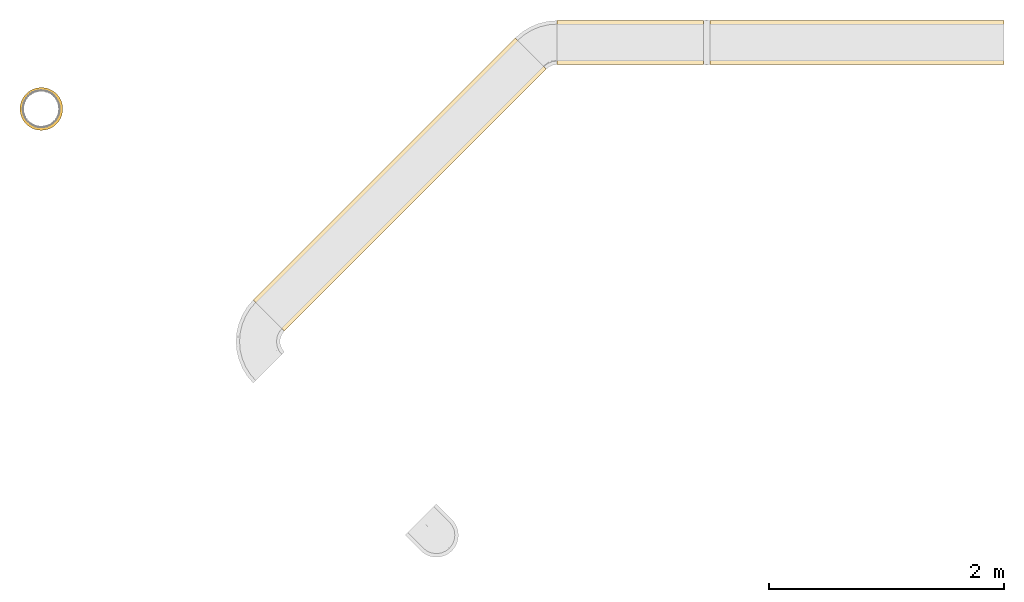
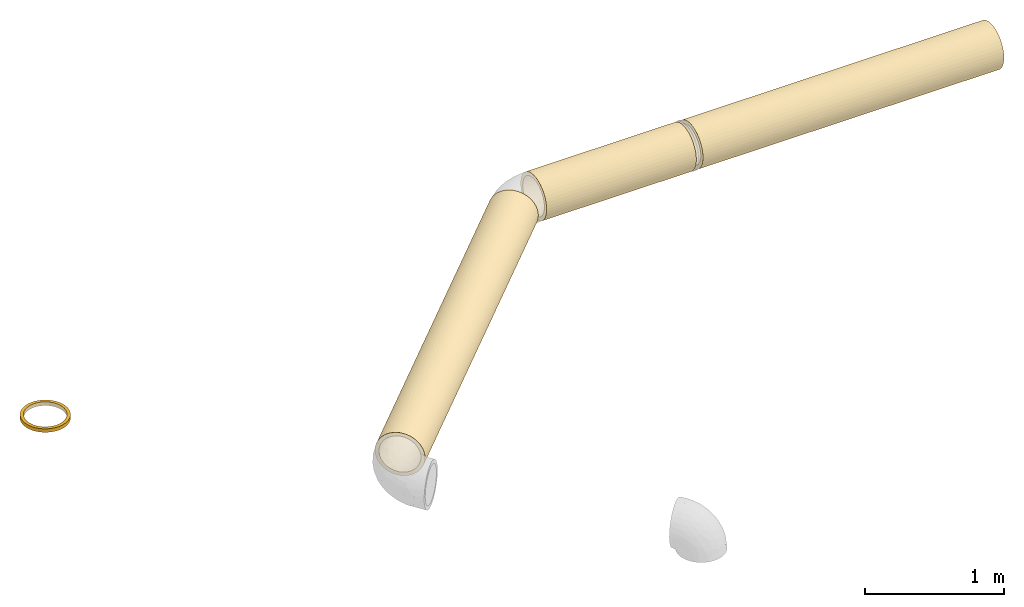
# One storey, part 1 of 7: 4 coverings.
"""IFC2X3 building model written with IfcOpenShell, lengths in millimetres."""

from ifc_helpers import new_model, entity, si_unit, converted_unit, derived_unit, direction, frame, origin_with_axes, origin_2d_with_axis, place, context, subcontext, project, spatial, hollow_circle, extrude, source, transform, mapped, element, save


model = new_model("IFC2X3")

# Units and contexts
model_context = context("Model", 3, precision=0.01, world=frame((0.0, 4.29681676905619e-09, 0.0)), true_north=direction((4.01073788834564e-13, 1.0)))
plan_context = context("Plan", 3, precision=0.01, world=frame((0.0, 4.29681676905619e-09, 0.0)), true_north=direction((4.01073788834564e-13, 1.0)))
body_context = subcontext(model_context, "Body", "Model", "MODEL_VIEW")
ifc_project = project(units=[converted_unit("PLANEANGLEUNIT", "DEGREE", entity("IfcPositiveLengthMeasure", 0.0174532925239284), si_unit("PLANEANGLEUNIT", "RADIAN"), dimensions=[0, 0, 0, 0, 0, 0, 0]), si_unit("AREAUNIT", "SQUARE_METRE"), si_unit("LENGTHUNIT", "METRE", prefix="MILLI"), si_unit("MASSUNIT", "GRAM", prefix="KILO"), si_unit("POWERUNIT", "WATT"), si_unit("PRESSUREUNIT", "PASCAL", prefix="KILO"), si_unit("FORCEUNIT", "NEWTON", prefix="KILO"), si_unit("ELECTRICVOLTAGEUNIT", "VOLT"), si_unit("ELECTRICCURRENTUNIT", "AMPERE"), si_unit("THERMODYNAMICTEMPERATUREUNIT", "DEGREE_CELSIUS"), si_unit("TIMEUNIT", "SECOND"), si_unit("VOLUMEUNIT", "CUBIC_METRE"), derived_unit("LINEARVELOCITYUNIT", [(si_unit("LENGTHUNIT", "METRE"), 1), (si_unit("TIMEUNIT", "SECOND"), -1)]), derived_unit("VOLUMETRICFLOWRATEUNIT", [(si_unit("VOLUMEUNIT", "CUBIC_METRE"), 1), (si_unit("TIMEUNIT", "SECOND"), -1)]), derived_unit("THERMALTRANSMITTANCEUNIT", [(si_unit("POWERUNIT", "WATT"), 1), (si_unit("THERMODYNAMICTEMPERATUREUNIT", "KELVIN"), -1), (si_unit("AREAUNIT", "SQUARE_METRE"), -1)]), derived_unit("SOUNDPRESSUREUNIT", [(si_unit("PRESSUREUNIT", "PASCAL"), 1)])], contexts=[model_context, plan_context])

# Site, building, storey
site_placement = place(None, frame((0.0, -4.29681676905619e-09, 0.0), z_axis=(0.0, 0.0, 1.0), x_axis=(1.0, 0.0, 0.0)))
site = spatial("IfcSite", under=ifc_project, at=site_placement, CompositionType="ELEMENT")
building_placement = place(site_placement, frame((0.0, 4.29681676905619e-09, 0.0), z_axis=(0.0, 0.0, 1.0), x_axis=(1.0, 0.0, 0.0)))
building = spatial("IfcBuilding", under=site, at=building_placement, Name="mc-building", CompositionType="ELEMENT")
storey_placement = place(building_placement, frame((0.0, 0.0, 207370.0), z_axis=(0.0, 0.0, 1.0), x_axis=(1.0, 0.0, 0.0)))
storey = spatial("IfcBuildingStorey", under=building, at=storey_placement, Name="Nivå E", CompositionType="ELEMENT", Elevation=207370.0)

# Coverings
shared_shape_1 = source(origin_with_axes(), body_context, "Body", "SweptSolid", [
    extrude(hollow_circle(Radius=187.5, WallThickness=30.0, at=origin_2d_with_axis()), frame((0.0, 0.0, 0.0), z_axis=(1.0, 0.0, 0.0), x_axis=(0.0, 1.0, 0.0)), (0.0, 0.0, 1.0), 3159.7),
])
covering_1_placement = place(storey_placement, frame((599272.11348, 402625.26225, 120.0), z_axis=(0.0, 0.0, 1.0), x_axis=(0.707106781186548, 0.707106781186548, 0.0)))
element("IfcCovering", 1, at=covering_1_placement, inside=storey, Name="EI30-30", PredefinedType="INSULATION", context=body_context, shape_type="MappedRepresentation", body=[
    mapped(shared_shape_1, transform((0.0, 0.0, 0.0), scale=1.0)),
])
shared_shape_2 = source(origin_with_axes(), body_context, "Body", "SweptSolid", [
    extrude(hollow_circle(Radius=187.5, WallThickness=30.0, at=origin_2d_with_axis()), frame((0.0, 0.0, 0.0), z_axis=(1.0, 0.0, 0.0), x_axis=(0.0, 1.0, 0.0)), (0.0, 0.0, 1.0), 1248.5),
])
covering_2_placement = place(storey_placement, frame((602977.61721, 404951.79391, 120.0), z_axis=(0.0, 0.0, 1.0), x_axis=(-1.0, 0.0, 0.0)))
element("IfcCovering", 2, at=covering_2_placement, inside=storey, Name="EI30-30", PredefinedType="INSULATION", context=body_context, shape_type="MappedRepresentation", body=[
    mapped(shared_shape_2, transform((0.0, 0.0, 0.0), scale=1.0)),
])
shared_shape_3 = source(origin_with_axes(), body_context, "Body", "SweptSolid", [
    extrude(hollow_circle(Radius=182.5, WallThickness=25.0, at=origin_2d_with_axis()), frame((0.0, 0.0, 0.0), z_axis=(1.0, 0.0, 0.0), x_axis=(0.0, 1.0, 0.0)), (0.0, 0.0, 1.0), 31.0),
])
covering_3_placement = place(storey_placement, frame((597332.0, 404386.04214, 50.0), z_axis=(0.0, 1.0, 0.0), x_axis=(0.0, 0.0, 1.0)))
element("IfcCovering", 3, at=covering_3_placement, inside=storey, Name="T=25mm", PredefinedType="INSULATION", context=body_context, shape_type="MappedRepresentation", body=[
    mapped(shared_shape_3, transform((0.0, 0.0, 0.0), scale=1.0)),
])
shared_shape_4 = source(origin_with_axes(), body_context, "Body", "SweptSolid", [
    extrude(hollow_circle(Radius=187.5, WallThickness=30.0, at=origin_2d_with_axis()), frame((0.0, 0.0, 0.0), z_axis=(1.0, 0.0, 0.0), x_axis=(0.0, 1.0, 0.0)), (0.0, 0.0, 1.0), 2509.3),
])
covering_4_placement = place(storey_placement, frame((603032.61721, 404951.79391, 120.0), z_axis=(0.0, 0.0, 1.0), x_axis=(1.0, 0.0, 0.0)))
element("IfcCovering", 4, at=covering_4_placement, inside=storey, Name="EI30-30", PredefinedType="INSULATION", context=body_context, shape_type="MappedRepresentation", body=[
    mapped(shared_shape_4, transform((0.0, 0.0, 0.0), scale=1.0)),
])

save(model, "model.ifc")
